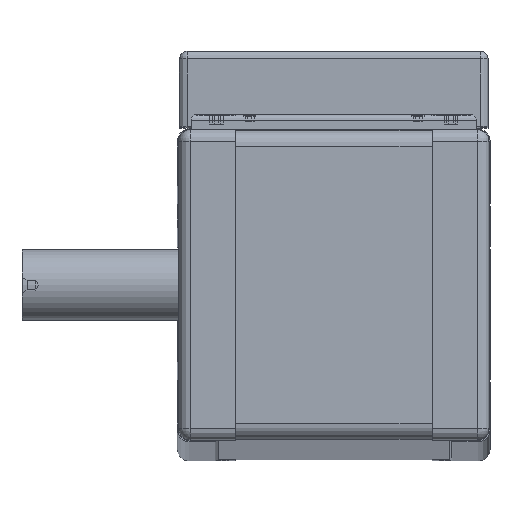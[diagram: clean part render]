
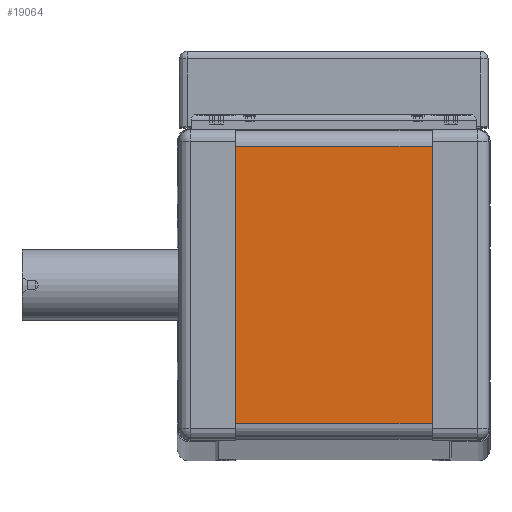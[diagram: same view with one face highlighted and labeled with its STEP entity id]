
A CAD part, top view. The second image highlights one B-rep face of the part: STEP entity #19064.
In plain terms, the highlighted planar face has unit normal (0, 0, 1) as drawn and (1, 0, 0) by its records, which use the part's own axes.
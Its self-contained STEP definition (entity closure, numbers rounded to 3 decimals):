
#474=LINE('',#25494,#1754);
#493=LINE('',#25546,#1773);
#532=LINE('',#25674,#1812);
#533=LINE('',#25676,#1813);
#1754=VECTOR('',#21381,1000.);
#1773=VECTOR('',#21418,1000.);
#1812=VECTOR('',#21553,1000.);
#1813=VECTOR('',#21556,1000.);
#3197=ORIENTED_EDGE('',*,*,#6753,.T.);
#3198=ORIENTED_EDGE('',*,*,#6819,.F.);
#3199=ORIENTED_EDGE('',*,*,#6726,.F.);
#3200=ORIENTED_EDGE('',*,*,#6820,.T.);
#6726=EDGE_CURVE('',#8560,#8561,#474,.T.);
#6753=EDGE_CURVE('',#8585,#8584,#493,.T.);
#6819=EDGE_CURVE('',#8561,#8584,#532,.T.);
#6820=EDGE_CURVE('',#8560,#8585,#533,.T.);
#8560=VERTEX_POINT('',#25493);
#8561=VERTEX_POINT('',#25495);
#8584=VERTEX_POINT('',#25545);
#8585=VERTEX_POINT('',#25547);
#10421=EDGE_LOOP('',(#3197,#3198,#3199,#3200));
#11565=FACE_BOUND('',#10421,.T.);
#12702=PLANE('',#19979);
#19064=ADVANCED_FACE('',(#11565),#12702,.F.);
#19979=AXIS2_PLACEMENT_3D('',#25675,#21554,#21555);
#21381=DIRECTION('',(0.,1.,0.));
#21418=DIRECTION('',(0.,1.,0.));
#21553=DIRECTION('',(0.,0.,-1.));
#21554=DIRECTION('',(-1.,0.,0.));
#21555=DIRECTION('',(0.,0.,1.));
#21556=DIRECTION('',(0.,0.,-1.));
#25493=CARTESIAN_POINT('',(44.75,-35.5,25.2));
#25494=CARTESIAN_POINT('',(44.75,-35.5,25.2));
#25495=CARTESIAN_POINT('',(44.75,35.5,25.2));
#25545=CARTESIAN_POINT('',(44.75,35.5,-25.2));
#25546=CARTESIAN_POINT('',(44.75,-35.5,-25.2));
#25547=CARTESIAN_POINT('',(44.75,-35.5,-25.2));
#25674=CARTESIAN_POINT('',(44.75,35.5,25.2));
#25675=CARTESIAN_POINT('',(44.75,-35.5,25.2));
#25676=CARTESIAN_POINT('',(44.75,-35.5,25.2));
